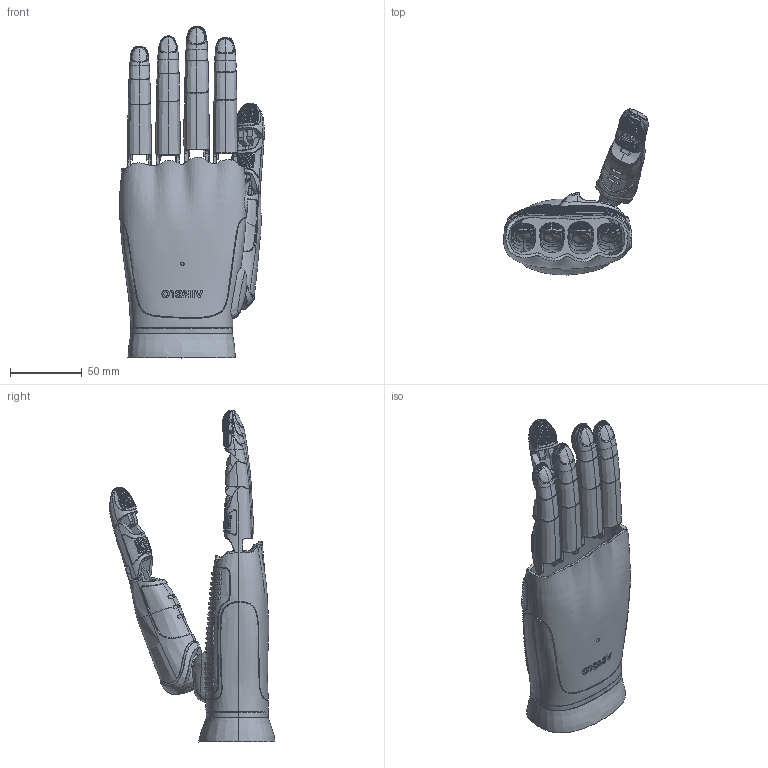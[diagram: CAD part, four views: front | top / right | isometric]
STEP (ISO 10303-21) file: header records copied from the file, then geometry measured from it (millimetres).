
FILE_DESCRIPTION (( 'STEP AP214' ), '1' );
FILE_NAME ('2508220001_L.STEP', '2025-08-22T09:49:58', ( '' ), ( '' ), 'SwSTEP 2.0', 'SolidWorks 2019', '' );
FILE_SCHEMA (( 'AUTOMOTIVE_DESIGN' ));
Length unit declared in the file: millimetre
Products named in the file (1): 2508220001_L
Bounding box: 100.83 x 115.68 x 231.88 mm (x, y, z)
Surface area: 139639 mm2 (no closed solid volume)
Topology: 0 solids, 31 shells, 3184 faces, 8480 edges, 5353 vertices
Faces by surface type: bspline 1205, plane 1054, cylinder 744, cone 135, torus 45, sphere 1
Entity records: 374697 total; most frequent: CARTESIAN_POINT 273702, ORIENTED_EDGE 16812, DIRECTION 8430, EDGE_CURVE 8408, VERTEX_POINT 5353, B_SPLINE_CURVE_WITH_KNOTS 4685, EDGE_LOOP 3330, UNCERTAINTY_MEASURE_WITH_UNIT 3214
